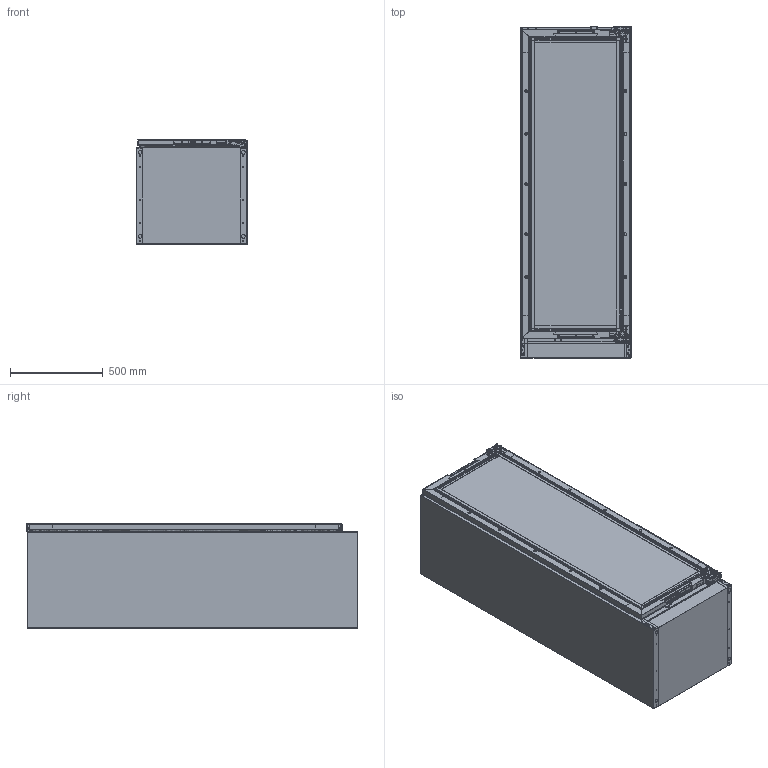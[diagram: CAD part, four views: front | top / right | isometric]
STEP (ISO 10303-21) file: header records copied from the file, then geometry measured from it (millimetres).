
FILE_DESCRIPTION((''),'2;1');
FILE_NAME('1220018_ASM','2026-02-07T18:27:40',('Administrator'),(''),'CREO PARAMETRIC BY PTC INC, 2019080','CREO PARAMETRIC BY PTC INC, 2019080','');
FILE_SCHEMA(('CONFIG_CONTROL_DESIGN'));
Products named in the file (56): 0001_122_0001; 122__32-000; 46-180_32--0001; 00_122_0001; 46-180__320001; 1060003_122_0001; 180_122_320001; __00_122_0001; 46-180_32--0002; 0001_106-01_1__DZ01-1964__106_3; M50001_106-01_1__DZ01-1964__106; 106-01_1__DZ01-1964__106_-90594_ASM; DZ01-1964__106_32-0001_ASM; 122__320001; 1060004_122_0001; 122320001; DZ01-1965__106_320001; 106-R0003_122_0001; 00; 106-01_1__DZ01-1964__106_-95600_ASM; DZ01-1964__106_32-0002_ASM; __0001_122_0001; 106-L0001_122_0001; 122_0001_ASM; DWX_LMZ_ASM_0001; LMZ_LMZ_ASM_0001; LMZ1_LMZ_ASM_0001; LOS_LMZ_ASM_0001; LMZ_ASM_-778970001_ASM; _873910001_ASM; LMZ_ASM_-1048590001_ASM; _1226180001_ASM; DZ01-1334-1_122_10001; DZ01-1503-1_122__10001; 106-0500____0001; 106-200____0001; 106-0700_10620001_0001; 10620001_ASM____0001_ASM; 10600____0001; ___0001_ASM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
Assembly tree (75 placements, depth 6):
  1220018_ASM
    122_10001_ASM
      122_0001_ASM
        0001_122_0001
        122__32-000
        46-180_32--0001
        00_122_0001
        46-180__320001  x2
        1060003_122_0001  x2
        180_122_320001  x2
        __00_122_0001
        46-180_32--0002
        DZ01-1964__106_32-0001_ASM
          106-01_1__DZ01-1964__106_-90594_ASM
            0001_106-01_1__DZ01-1964__106_3
            M50001_106-01_1__DZ01-1964__106
        122__320001  x2
        1060004_122_0001  x2
        122__32-000
        122320001
        DZ01-1965__106_320001  x2
        106-R0003_122_0001
        00
        DZ01-1964__106_32-0002_ASM
          106-01_1__DZ01-1964__106_-95600_ASM
            0001_106-01_1__DZ01-1964__106_3
            M50001_106-01_1__DZ01-1964__106
        __0001_122_0001
        106-L0001_122_0001
      _873910001_ASM
        LMZ_ASM_-778970001_ASM
          DWX_LMZ_ASM_0001
          LMZ_LMZ_ASM_0001
          LMZ1_LMZ_ASM_0001
          LOS_LMZ_ASM_0001
      _1226180001_ASM
        LMZ_ASM_-1048590001_ASM
          LMZ1_LMZ_ASM_0001
          DWX_LMZ_ASM_0001
          LOS_LMZ_ASM_0001
          LMZ_LMZ_ASM_0001
      DZ01-1334-1_122_10001
      DZ01-1503-1_122__10001
      _0001_ASM
        ___0001_ASM
          106-0500____0001
          106-200____0001
          10620001_ASM____0001_ASM
            106-0700_10620001_0001
          10600____0001
      46-60_0001
      0007_ASM
        106-0500_0001
        10610001_ASM_0001_ASM
          106-600_10610001_A0001
          106-07-R00_10610000001
        106-R00_0001
        106-200_0001
      _560490001_ASM
        LMZ_ASM_-290420001_ASM
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Bounding box: 597 x 1786.65 x 560.87 mm (x, y, z)
Volume: 27928196.8 mm3; surface area: 13811154.4 mm2
Topology: 58 solids, 66 shells, 4523 faces, 12233 edges, 7753 vertices
Faces by surface type: plane 2697, cylinder 1310, bspline 234, cone 175, torus 36, sphere 36, extrusion 35
Entity records: 122344 total; most frequent: CARTESIAN_POINT 31076, ORIENTED_EDGE 19093, DIRECTION 18217, EDGE_CURVE 9616, VECTOR 6827, LINE 6792, VERTEX_POINT 6113, AXIS2_PLACEMENT_3D 5695
